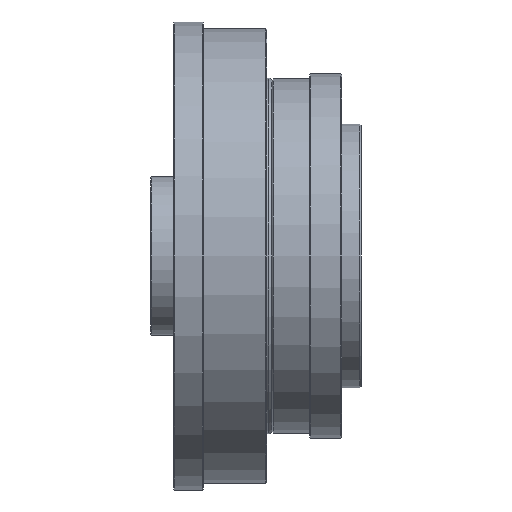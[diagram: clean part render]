
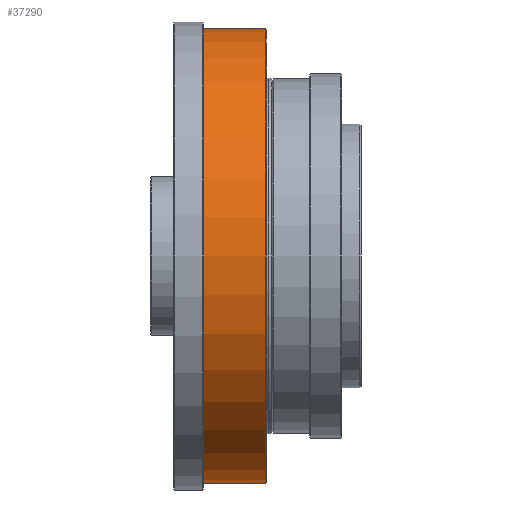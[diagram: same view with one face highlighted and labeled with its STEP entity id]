
A CAD part, front view. The second image highlights one B-rep face of the part: STEP entity #37290.
In plain terms, the highlighted cylindrical face has radius 138 mm (diameter 276 mm), a partial arc.
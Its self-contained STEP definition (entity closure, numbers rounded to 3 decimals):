
#2023 = DIRECTION ( 'NONE',  ( -1., 0., 0. ) ) ;
#4601 = CARTESIAN_POINT ( 'NONE',  ( -99.85, 0., 138. ) ) ;
#4655 = DIRECTION ( 'NONE',  ( -1., 0., 0. ) ) ;
#4870 = CARTESIAN_POINT ( 'NONE',  ( -147., 0., 0. ) ) ;
#5923 = FACE_OUTER_BOUND ( 'NONE', #26712, .T. ) ;
#6983 = ORIENTED_EDGE ( 'NONE', *, *, #48305, .T. ) ;
#9621 = ORIENTED_EDGE ( 'NONE', *, *, #21947, .F. ) ;
#9756 = CARTESIAN_POINT ( 'NONE',  ( -58., 0., -138. ) ) ;
#11743 = EDGE_CURVE ( 'NONE', #29464, #49338, #63320, .T. ) ;
#12736 = CIRCLE ( 'NONE', #40112, 138. ) ;
#15320 = CARTESIAN_POINT ( 'NONE',  ( -147., 0., 138. ) ) ;
#17703 = ORIENTED_EDGE ( 'NONE', *, *, #49024, .F. ) ;
#18079 = VECTOR ( 'NONE', #4655, 1000. ) ;
#21947 = EDGE_CURVE ( 'NONE', #29254, #49338, #61542, .T. ) ;
#22188 = ORIENTED_EDGE ( 'NONE', *, *, #11743, .T. ) ;
#25252 = DIRECTION ( 'NONE',  ( -1., 0., 0. ) ) ;
#25483 = LINE ( 'NONE', #34438, #68942 ) ;
#26712 = EDGE_LOOP ( 'NONE', ( #17703, #6983, #22188, #9621 ) ) ;
#27618 = DIRECTION ( 'NONE',  ( -1., 0., 0. ) ) ;
#29254 = VERTEX_POINT ( 'NONE', #36188 ) ;
#29464 = VERTEX_POINT ( 'NONE', #44037 ) ;
#33776 = VERTEX_POINT ( 'NONE', #9756 ) ;
#34438 = CARTESIAN_POINT ( 'NONE',  ( -147., 0., -138. ) ) ;
#36188 = CARTESIAN_POINT ( 'NONE',  ( -99.85, 0., -138. ) ) ;
#37290 = ADVANCED_FACE ( 'NONE', ( #5923 ), #46007, .T. ) ;
#37485 = DIRECTION ( 'NONE',  ( 0., 0., 1. ) ) ;
#38376 = AXIS2_PLACEMENT_3D ( 'NONE', #57890, #25252, #63367 ) ;
#40112 = AXIS2_PLACEMENT_3D ( 'NONE', #60248, #27618, #65737 ) ;
#44037 = CARTESIAN_POINT ( 'NONE',  ( -58., 0., 138. ) ) ;
#46007 = CYLINDRICAL_SURFACE ( 'NONE', #57878, 138. ) ;
#48305 = EDGE_CURVE ( 'NONE', #33776, #29464, #12736, .T. ) ;
#48482 = DIRECTION ( 'NONE',  ( -1., 0., 0. ) ) ;
#49024 = EDGE_CURVE ( 'NONE', #33776, #29254, #25483, .T. ) ;
#49338 = VERTEX_POINT ( 'NONE', #4601 ) ;
#57878 = AXIS2_PLACEMENT_3D ( 'NONE', #4870, #48482, #37485 ) ;
#57890 = CARTESIAN_POINT ( 'NONE',  ( -99.85, 0., 0. ) ) ;
#60248 = CARTESIAN_POINT ( 'NONE',  ( -58., 0., 0. ) ) ;
#61542 = CIRCLE ( 'NONE', #38376, 138. ) ;
#63320 = LINE ( 'NONE', #15320, #18079 ) ;
#63367 = DIRECTION ( 'NONE',  ( 0., 0., 1. ) ) ;
#65737 = DIRECTION ( 'NONE',  ( 0., 0., -1. ) ) ;
#68942 = VECTOR ( 'NONE', #2023, 1000. ) ;
